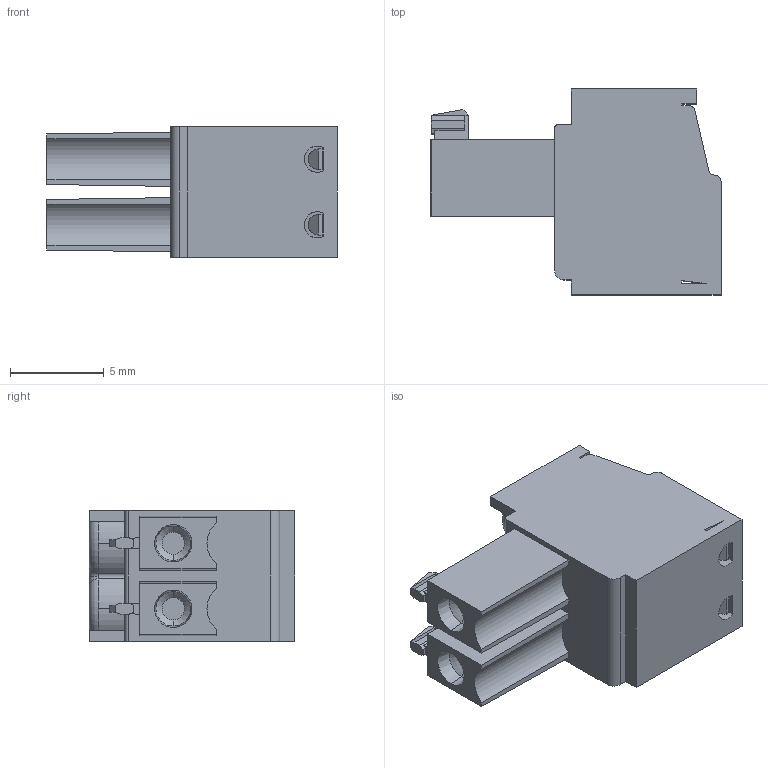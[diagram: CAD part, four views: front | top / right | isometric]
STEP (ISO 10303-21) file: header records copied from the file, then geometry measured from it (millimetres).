
FILE_DESCRIPTION (( 'STEP AP214' ), '1' );
FILE_NAME ('110-A-111-02.STEP', '2007-09-25T06:53:12', ( ' ' ), ( '' ), 'SwSTEP 2.0', 'SolidWorks 2007', '' );
FILE_SCHEMA (( 'AUTOMOTIVE_DESIGN' ));
Length unit declared in the file: millimetre
Products named in the file (1): 110-A-111-02
Bounding box: 15.5 x 11 x 7 mm (x, y, z)
Volume: 691.9 mm3; surface area: 859.8 mm2
Topology: 1 solids, 1 shells, 300 faces, 768 edges, 486 vertices
Faces by surface type: plane 178, cylinder 64, cone 30, bspline 14, torus 14
Entity records: 9563 total; most frequent: CARTESIAN_POINT 2325, ORIENTED_EDGE 1536, DIRECTION 1456, EDGE_CURVE 768, LINE 506, VECTOR 506, VERTEX_POINT 486, AXIS2_PLACEMENT_3D 475
